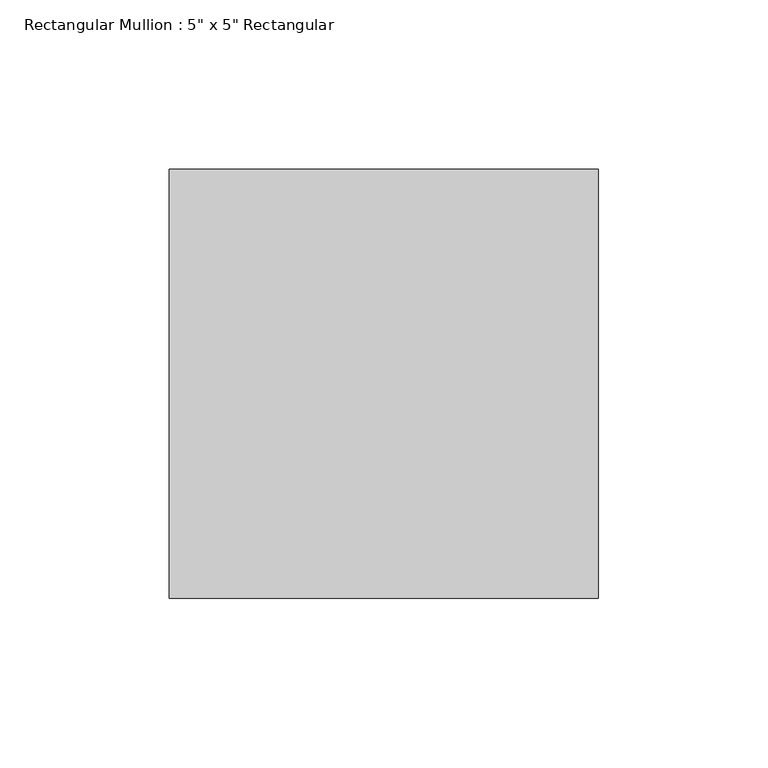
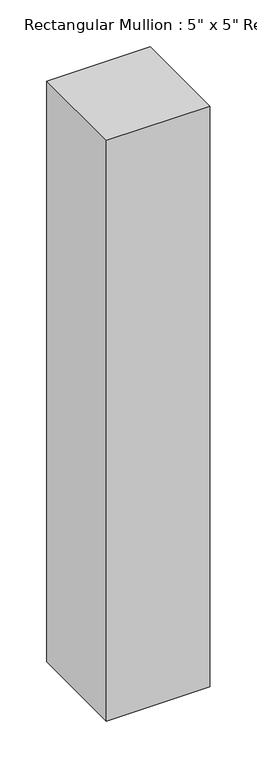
"""IFC4 building model written with IfcOpenShell, lengths in millimetres: member geometry."""

from ifc_helpers import new_model, si_unit, frame, origin, place, context, project, spatial, polyline, outline, extrude, source, transform, mapped, element, save


def member_0208a0fb(model_context):
    return source(origin(), model_context, "Body", "SweptSolid", [
        extrude(outline(polyline([(0.0, 63.5), (0.0, -63.5), (-127.0, -63.5), (-127.0, 63.5), (0.0, 63.5)])), frame((0.0, 0.0, -755.65), z_axis=(0.0, 0.0, 1.0), x_axis=(1.0, 0.0, 0.0)), (0.0, 0.0, 1.0), 755.65),
    ])


if __name__ == "__main__":
    model = new_model("IFC4")
    model_context = context("Model", 3, world=origin())
    ifc_project = project(units=[si_unit("LENGTHUNIT", "METRE", prefix="MILLI")], contexts=[model_context])
    site = spatial("IfcSite", under=ifc_project)
    building = spatial("IfcBuilding", under=site)
    placement = place(None, origin())
    member_shape = member_0208a0fb(model_context)
    element("IfcMember", 1, ObjectType="Rectangular Mullion : 5\" x 5\" Rectangular", at=placement, inside=building, context=model_context, shape_type="MappedRepresentation", body=[
        mapped(member_shape, transform((0.0, 0.0, 0.0), x_axis=(1.0, 0.0, 0.0), y_axis=(0.0, 1.0, 0.0), z_axis=(0.0, 0.0, 1.0))),
    ])
    save(model, "model.ifc")
